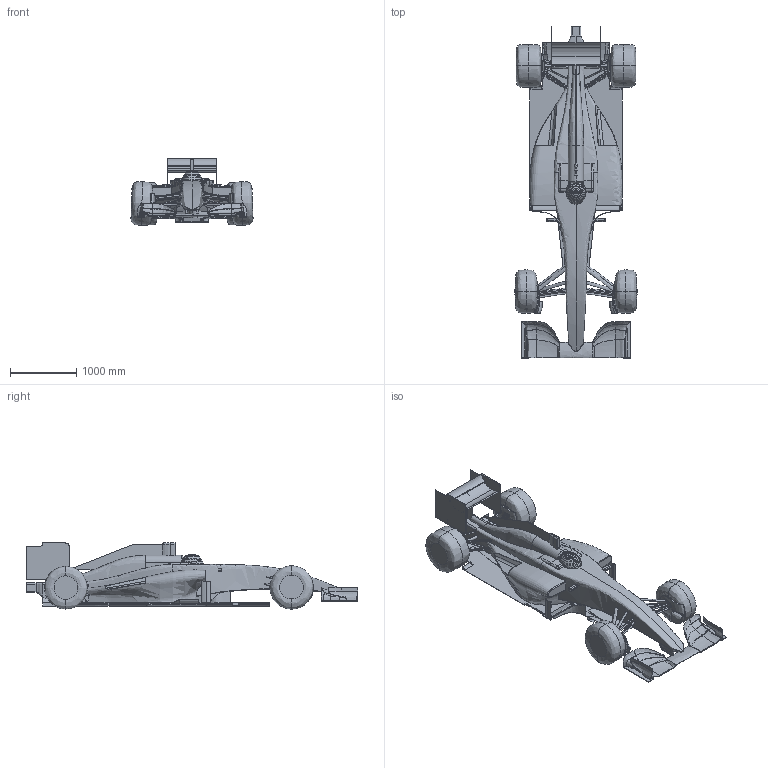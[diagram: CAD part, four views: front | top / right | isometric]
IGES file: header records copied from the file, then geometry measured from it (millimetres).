
Start section: 3D InterOp IGES (Version 25 0 0), Spatial Corp. Copyright (c) 1999-2007.
Global section: file name: MP002_GrabCAD.igs; native system: Spatial Corp.; preprocessor: 3D InterOp ACIS/IGES; author: Noname; organization: Noname; date: 20151112.143456; units: millimetre
Bounding box: 1839.91 x 5000 x 998.97 mm (x, y, z)
Volume: 1659259904 mm3; surface area: 27225971.8 mm2
Topology: 5 solids, 5 shells, 1832 faces, 3838 edges, 2003 vertices
Faces by surface type: plane 1220, bspline 360, cylinder 214, torus 34, sphere 4
